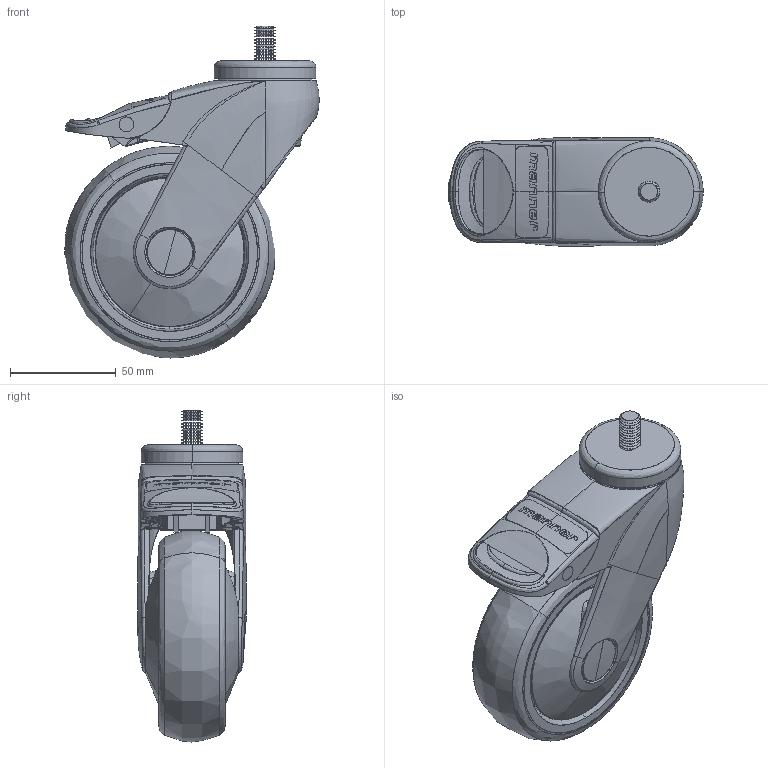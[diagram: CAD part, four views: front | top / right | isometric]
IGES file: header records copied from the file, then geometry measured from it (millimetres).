
Start section: SolidWorks IGES file using analytic representation for surfaces
Global section: file name: S:\Tyokansio\VL\301775_IGES.IGS; native system: SolidWorks 2011; preprocessor: SolidWorks 2011; author: VilleLa; date: 110620.084035; units: millimetre
Bounding box: 120.18 x 51.27 x 156.85 mm (x, y, z)
Surface area: 88854.6 mm2 (no closed solid volume)
Topology: 0 solids, 0 shells, 716 faces, 11673 edges, 11657 vertices
Faces by surface type: bspline 522, revolution 194
